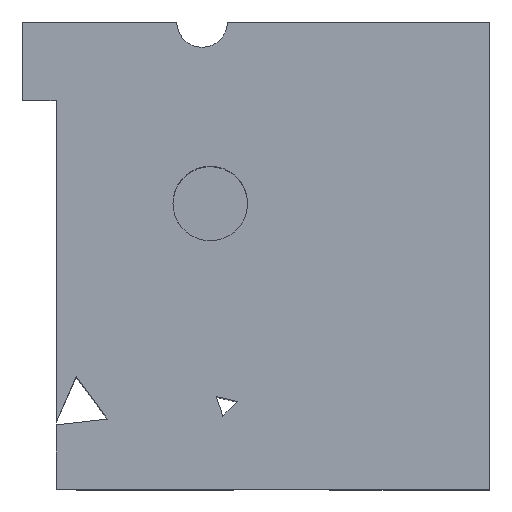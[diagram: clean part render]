
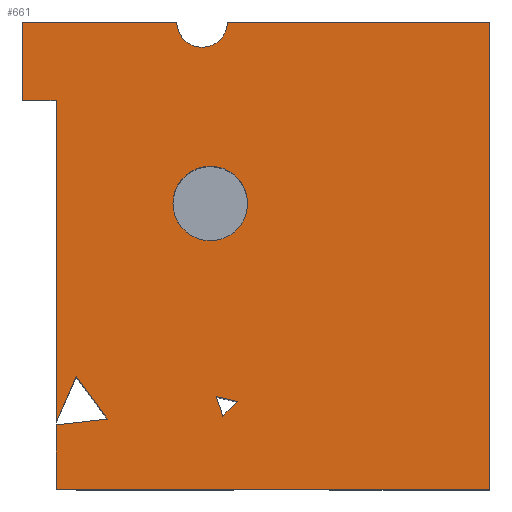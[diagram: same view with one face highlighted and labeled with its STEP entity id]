
A CAD part, top view. The second image highlights one B-rep face of the part: STEP entity #661.
In plain terms, the highlighted planar face has unit normal (0, 0, 1).
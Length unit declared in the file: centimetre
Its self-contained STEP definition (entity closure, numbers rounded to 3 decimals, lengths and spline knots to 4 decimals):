
#5 = VERTEX_POINT ( 'NONE', #1482 ) ;
#7 = VECTOR ( 'NONE', #1304, 100. ) ;
#21 = CARTESIAN_POINT ( 'NONE',  ( 0., 1000., 1000. ) ) ;
#48 = CIRCLE ( 'NONE', #879, 79.7959 ) ;
#69 = CARTESIAN_POINT ( 'NONE',  ( 0., 0., 1000. ) ) ;
#72 = VERTEX_POINT ( 'NONE', #1471 ) ;
#73 = VECTOR ( 'NONE', #182, 100. ) ;
#76 = VECTOR ( 'NONE', #1267, 100. ) ;
#84 = DIRECTION ( 'NONE',  ( 1., 0., 0. ) ) ;
#90 = ORIENTED_EDGE ( 'NONE', *, *, #315, .F. ) ;
#110 = CARTESIAN_POINT ( 'NONE',  ( 460.1884, 187.5925, 1000. ) ) ;
#122 = VERTEX_POINT ( 'NONE', #772 ) ;
#125 = VERTEX_POINT ( 'NONE', #566 ) ;
#133 = LINE ( 'NONE', #698, #1247 ) ;
#138 = LINE ( 'NONE', #920, #76 ) ;
#146 = DIRECTION ( 'NONE',  ( 1., 0., 0. ) ) ;
#154 = CARTESIAN_POINT ( 'NONE',  ( 72.1809, 832.7189, 1000. ) ) ;
#157 = EDGE_LOOP ( 'NONE', ( #90, #713 ) ) ;
#158 = CARTESIAN_POINT ( 'NONE',  ( 0., 832.7189, 1000. ) ) ;
#160 = EDGE_CURVE ( 'NONE', #1474, #673, #1381, .T. ) ;
#167 = EDGE_CURVE ( 'NONE', #277, #1109, #1274, .T. ) ;
#173 = ORIENTED_EDGE ( 'NONE', *, *, #1410, .T. ) ;
#182 = DIRECTION ( 'NONE',  ( 0., -1., 0. ) ) ;
#207 = EDGE_CURVE ( 'NONE', #571, #972, #676, .T. ) ;
#213 = LINE ( 'NONE', #301, #580 ) ;
#230 = VERTEX_POINT ( 'NONE', #340 ) ;
#236 = CARTESIAN_POINT ( 'NONE',  ( 72.1809, 832.7189, 1000. ) ) ;
#242 = CARTESIAN_POINT ( 'NONE',  ( 330.4393, 1000., 1000. ) ) ;
#247 = VECTOR ( 'NONE', #1362, 100. ) ;
#249 = EDGE_CURVE ( 'NONE', #1474, #230, #618, .T. ) ;
#251 = ORIENTED_EDGE ( 'NONE', *, *, #515, .T. ) ;
#254 = CARTESIAN_POINT ( 'NONE',  ( 402.1016, 611.566, 1000. ) ) ;
#273 = CARTESIAN_POINT ( 'NONE',  ( 72.1809, 832.7189, 1000. ) ) ;
#277 = VERTEX_POINT ( 'NONE', #354 ) ;
#299 = ORIENTED_EDGE ( 'NONE', *, *, #160, .T. ) ;
#300 = VERTEX_POINT ( 'NONE', #712 ) ;
#301 = CARTESIAN_POINT ( 'NONE',  ( 1000., 1000., 1000. ) ) ;
#312 = VECTOR ( 'NONE', #359, 100. ) ;
#315 = EDGE_CURVE ( 'NONE', #1109, #277, #48, .T. ) ;
#323 = DIRECTION ( 'NONE',  ( 1., 0., 0. ) ) ;
#326 = DIRECTION ( 'NONE',  ( 0.974, -0.227, 0. ) ) ;
#328 = CARTESIAN_POINT ( 'NONE',  ( 481.8975, 611.566, 1000. ) ) ;
#340 = CARTESIAN_POINT ( 'NONE',  ( 438.5603, 1000., 1000. ) ) ;
#353 = EDGE_CURVE ( 'NONE', #972, #371, #133, .T. ) ;
#354 = CARTESIAN_POINT ( 'NONE',  ( 322.3057, 611.566, 1000. ) ) ;
#357 = ORIENTED_EDGE ( 'NONE', *, *, #353, .T. ) ;
#359 = DIRECTION ( 'NONE',  ( -0.994, -0.113, 0. ) ) ;
#371 = VERTEX_POINT ( 'NONE', #1053 ) ;
#382 = LINE ( 'NONE', #158, #7 ) ;
#390 = VERTEX_POINT ( 'NONE', #1406 ) ;
#406 = CARTESIAN_POINT ( 'NONE',  ( 115.0258, 240.706, 1000. ) ) ;
#421 = LINE ( 'NONE', #1475, #1076 ) ;
#438 = CARTESIAN_POINT ( 'NONE',  ( 402.1016, 611.566, 1000. ) ) ;
#450 = EDGE_CURVE ( 'NONE', #1166, #72, #1309, .T. ) ;
#473 = EDGE_LOOP ( 'NONE', ( #1016, #966, #866, #596, #508, #299, #251, #753, #1464, #1288, #173, #989 ) ) ;
#485 = VECTOR ( 'NONE', #574, 100. ) ;
#508 = ORIENTED_EDGE ( 'NONE', *, *, #249, .F. ) ;
#515 = EDGE_CURVE ( 'NONE', #673, #125, #981, .T. ) ;
#522 = VERTEX_POINT ( 'NONE', #406 ) ;
#524 = FACE_OUTER_BOUND ( 'NONE', #473, .T. ) ;
#553 = EDGE_CURVE ( 'NONE', #1166, #125, #382, .T. ) ;
#556 = CARTESIAN_POINT ( 'NONE',  ( 115.0258, 240.706, 1000. ) ) ;
#558 = ORIENTED_EDGE ( 'NONE', *, *, #207, .T. ) ;
#566 = CARTESIAN_POINT ( 'NONE',  ( 0., 832.7189, 1000. ) ) ;
#571 = VERTEX_POINT ( 'NONE', #1428 ) ;
#574 = DIRECTION ( 'NONE',  ( -1., 0., 0. ) ) ;
#575 = VECTOR ( 'NONE', #326, 100. ) ;
#580 = VECTOR ( 'NONE', #783, 100. ) ;
#595 = CARTESIAN_POINT ( 'NONE',  ( 384.4998, 1000., 1000. ) ) ;
#596 = ORIENTED_EDGE ( 'NONE', *, *, #1463, .T. ) ;
#618 = CIRCLE ( 'NONE', #1004, 54.0605 ) ;
#642 = CARTESIAN_POINT ( 'NONE',  ( 0., 1000., 1000. ) ) ;
#661 = ADVANCED_FACE ( 'NONE', ( #524, #973, #1435 ), #1325, .T. ) ;
#669 = VECTOR ( 'NONE', #791, 100. ) ;
#673 = VERTEX_POINT ( 'NONE', #642 ) ;
#676 = LINE ( 'NONE', #110, #575 ) ;
#678 = CARTESIAN_POINT ( 'NONE',  ( 70.1334, 137.4238, 1000. ) ) ;
#685 = DIRECTION ( 'NONE',  ( -1., 0., 0. ) ) ;
#686 = LINE ( 'NONE', #678, #312 ) ;
#698 = CARTESIAN_POINT ( 'NONE',  ( 428.9907, 156.3948, 1000. ) ) ;
#700 = EDGE_CURVE ( 'NONE', #300, #390, #421, .T. ) ;
#709 = LINE ( 'NONE', #21, #1348 ) ;
#712 = CARTESIAN_POINT ( 'NONE',  ( 72.1809, 0., 1000. ) ) ;
#713 = ORIENTED_EDGE ( 'NONE', *, *, #167, .F. ) ;
#746 = DIRECTION ( 'NONE',  ( 0., 0., 1. ) ) ;
#753 = ORIENTED_EDGE ( 'NONE', *, *, #553, .F. ) ;
#758 = EDGE_CURVE ( 'NONE', #390, #5, #213, .T. ) ;
#772 = CARTESIAN_POINT ( 'NONE',  ( 182.0246, 150.187, 1000. ) ) ;
#783 = DIRECTION ( 'NONE',  ( 0., 1., 0. ) ) ;
#791 = DIRECTION ( 'NONE',  ( 0., -1., 0. ) ) ;
#818 = DIRECTION ( 'NONE',  ( 0., 0., 1. ) ) ;
#840 = EDGE_CURVE ( 'NONE', #72, #522, #1216, .T. ) ;
#848 = EDGE_CURVE ( 'NONE', #371, #571, #1134, .T. ) ;
#866 = ORIENTED_EDGE ( 'NONE', *, *, #758, .T. ) ;
#871 = EDGE_CURVE ( 'NONE', #1441, #300, #1269, .T. ) ;
#879 = AXIS2_PLACEMENT_3D ( 'NONE', #254, #818, #1149 ) ;
#894 = DIRECTION ( 'NONE',  ( 0., 0., 1. ) ) ;
#898 = DIRECTION ( 'NONE',  ( 0.399, 0.917, 0. ) ) ;
#920 = CARTESIAN_POINT ( 'NONE',  ( 182.0246, 150.187, 1000. ) ) ;
#933 = CARTESIAN_POINT ( 'NONE',  ( 72.1809, 137.6574, 1000. ) ) ;
#957 = EDGE_LOOP ( 'NONE', ( #558, #357, #1368 ) ) ;
#966 = ORIENTED_EDGE ( 'NONE', *, *, #700, .T. ) ;
#972 = VERTEX_POINT ( 'NONE', #1377 ) ;
#973 = FACE_BOUND ( 'NONE', #957, .T. ) ;
#981 = LINE ( 'NONE', #1316, #73 ) ;
#989 = ORIENTED_EDGE ( 'NONE', *, *, #1052, .T. ) ;
#1004 = AXIS2_PLACEMENT_3D ( 'NONE', #595, #1060, #146 ) ;
#1007 = CARTESIAN_POINT ( 'NONE',  ( 0., 1000., 1000. ) ) ;
#1016 = ORIENTED_EDGE ( 'NONE', *, *, #871, .T. ) ;
#1017 = DIRECTION ( 'NONE',  ( 1., 0., 0. ) ) ;
#1052 = EDGE_CURVE ( 'NONE', #122, #1441, #686, .T. ) ;
#1053 = CARTESIAN_POINT ( 'NONE',  ( 428.9907, 156.3948, 1000. ) ) ;
#1060 = DIRECTION ( 'NONE',  ( 0., 0., 1. ) ) ;
#1076 = VECTOR ( 'NONE', #84, 100. ) ;
#1109 = VERTEX_POINT ( 'NONE', #328 ) ;
#1134 = LINE ( 'NONE', #1339, #247 ) ;
#1149 = DIRECTION ( 'NONE',  ( 1., 0., 0. ) ) ;
#1166 = VERTEX_POINT ( 'NONE', #154 ) ;
#1170 = DIRECTION ( 'NONE',  ( -0.707, -0.707, 0. ) ) ;
#1173 = AXIS2_PLACEMENT_3D ( 'NONE', #438, #894, #1017 ) ;
#1199 = VECTOR ( 'NONE', #1209, 100. ) ;
#1209 = DIRECTION ( 'NONE',  ( 0., -1., 0. ) ) ;
#1216 = LINE ( 'NONE', #556, #1440 ) ;
#1247 = VECTOR ( 'NONE', #1170, 100. ) ;
#1267 = DIRECTION ( 'NONE',  ( 0.595, -0.804, 0. ) ) ;
#1269 = LINE ( 'NONE', #236, #669 ) ;
#1274 = CIRCLE ( 'NONE', #1173, 79.7959 ) ;
#1288 = ORIENTED_EDGE ( 'NONE', *, *, #840, .T. ) ;
#1301 = AXIS2_PLACEMENT_3D ( 'NONE', #69, #746, #323 ) ;
#1304 = DIRECTION ( 'NONE',  ( -1., 0., 0. ) ) ;
#1309 = LINE ( 'NONE', #273, #1199 ) ;
#1316 = CARTESIAN_POINT ( 'NONE',  ( 0., 1000., 1000. ) ) ;
#1325 = PLANE ( 'NONE',  #1301 ) ;
#1339 = CARTESIAN_POINT ( 'NONE',  ( 414.632, 198.224, 1000. ) ) ;
#1348 = VECTOR ( 'NONE', #685, 100. ) ;
#1362 = DIRECTION ( 'NONE',  ( -0.325, 0.946, 0. ) ) ;
#1368 = ORIENTED_EDGE ( 'NONE', *, *, #848, .T. ) ;
#1377 = CARTESIAN_POINT ( 'NONE',  ( 460.1884, 187.5925, 1000. ) ) ;
#1381 = LINE ( 'NONE', #1007, #485 ) ;
#1406 = CARTESIAN_POINT ( 'NONE',  ( 1000., 0., 1000. ) ) ;
#1410 = EDGE_CURVE ( 'NONE', #522, #122, #138, .T. ) ;
#1428 = CARTESIAN_POINT ( 'NONE',  ( 414.632, 198.224, 1000. ) ) ;
#1435 = FACE_BOUND ( 'NONE', #157, .T. ) ;
#1440 = VECTOR ( 'NONE', #898, 100. ) ;
#1441 = VERTEX_POINT ( 'NONE', #933 ) ;
#1463 = EDGE_CURVE ( 'NONE', #5, #230, #709, .T. ) ;
#1464 = ORIENTED_EDGE ( 'NONE', *, *, #450, .T. ) ;
#1471 = CARTESIAN_POINT ( 'NONE',  ( 72.1809, 142.1343, 1000. ) ) ;
#1474 = VERTEX_POINT ( 'NONE', #242 ) ;
#1475 = CARTESIAN_POINT ( 'NONE',  ( 0., 0., 1000. ) ) ;
#1482 = CARTESIAN_POINT ( 'NONE',  ( 1000., 1000., 1000. ) ) ;
